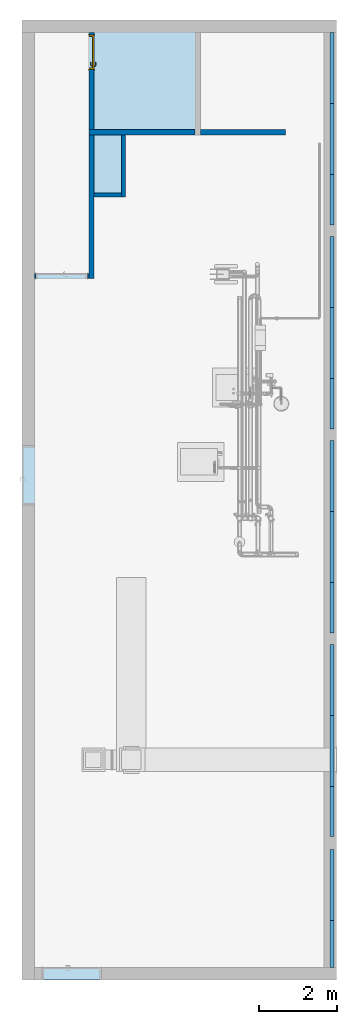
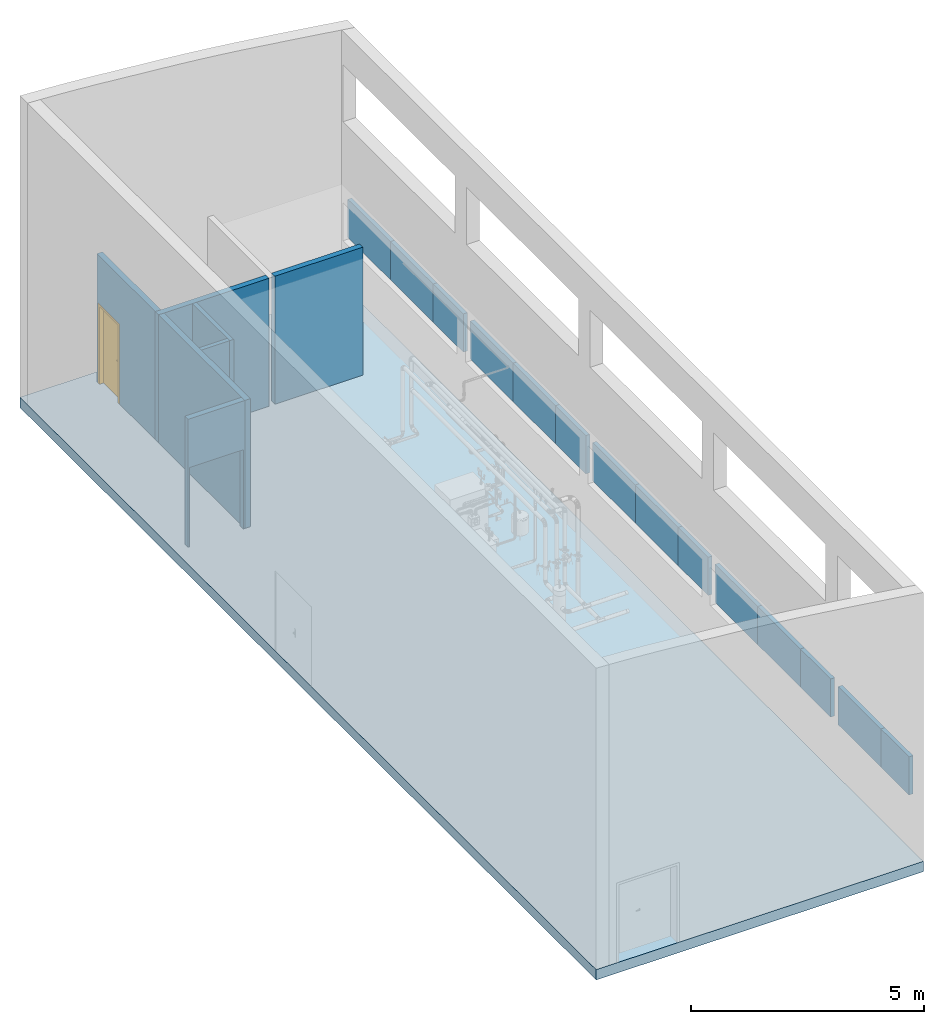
# One storey, part 1 of 43: 14 plates, 7 walls, 1 door, 1 slab, 2 openings, 5 elements without a shape of their own.
"""IFC2X3 building model written with IfcOpenShell, lengths in millimetres."""

from ifc_helpers import new_model, entity, si_unit, converted_unit, derived_unit, direction, frame, frame_2d, origin, origin_2d_with_axis, place, context, subcontext, project, spatial, polyline, rectangle, extrude, clip, bounded_halfspace, faceted_brep, source, transform, mapped, material, material_list, layer, layer_set, layer_usage, type_object, type_shapes, element, fill, aggregate, save


model = new_model("IFC2X3")

# Units and contexts
model_context = context("Model", 3, precision=0.01, world=origin(), true_north=direction((6.123031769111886e-17, 1.0)))
body_context = subcontext(model_context, "Body", "Model", "MODEL_VIEW")
ifc_project = project(units=[si_unit("LENGTHUNIT", "METRE", prefix="MILLI"), si_unit("AREAUNIT", "SQUARE_METRE"), si_unit("VOLUMEUNIT", "CUBIC_METRE"), converted_unit("PLANEANGLEUNIT", "DEGREE", entity("IfcRatioMeasure", 0.017453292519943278), si_unit("PLANEANGLEUNIT", "RADIAN"), dimensions=[0, 0, 0, 0, 0, 0, 0]), si_unit("MASSUNIT", "GRAM", prefix="KILO"), derived_unit("MASSDENSITYUNIT", [(si_unit("MASSUNIT", "GRAM", prefix="KILO"), 1), (si_unit("LENGTHUNIT", "METRE"), -3)]), derived_unit("MOMENTOFINERTIAUNIT", [(si_unit("LENGTHUNIT", "METRE"), 4)]), si_unit("TIMEUNIT", "SECOND"), si_unit("FREQUENCYUNIT", "HERTZ"), si_unit("THERMODYNAMICTEMPERATUREUNIT", "DEGREE_CELSIUS"), derived_unit("THERMALTRANSMITTANCEUNIT", [(si_unit("MASSUNIT", "GRAM", prefix="KILO"), 1), (si_unit("THERMODYNAMICTEMPERATUREUNIT", "KELVIN"), -1), (si_unit("TIMEUNIT", "SECOND"), -3)]), derived_unit("VOLUMETRICFLOWRATEUNIT", [(si_unit("LENGTHUNIT", "METRE"), 3), (si_unit("TIMEUNIT", "SECOND"), -1)]), derived_unit("MASSFLOWRATEUNIT", [(si_unit("MASSUNIT", "GRAM", prefix="KILO"), 1), (si_unit("TIMEUNIT", "SECOND"), -1)]), derived_unit("ROTATIONALFREQUENCYUNIT", [(si_unit("TIMEUNIT", "SECOND"), -1)]), si_unit("ELECTRICCURRENTUNIT", "AMPERE"), si_unit("ELECTRICVOLTAGEUNIT", "VOLT"), si_unit("POWERUNIT", "WATT"), si_unit("FORCEUNIT", "NEWTON", prefix="KILO"), si_unit("ILLUMINANCEUNIT", "LUX"), si_unit("LUMINOUSFLUXUNIT", "LUMEN"), si_unit("LUMINOUSINTENSITYUNIT", "CANDELA"), derived_unit("USERDEFINED", [(si_unit("MASSUNIT", "GRAM", prefix="KILO"), -1), (si_unit("LENGTHUNIT", "METRE"), -2), (si_unit("TIMEUNIT", "SECOND"), 3), (si_unit("LUMINOUSFLUXUNIT", "LUMEN"), 1)]), derived_unit("SOUNDPOWERUNIT", [(si_unit("MASSUNIT", "GRAM", prefix="KILO"), 1), (si_unit("LENGTHUNIT", "METRE"), 2), (si_unit("TIMEUNIT", "SECOND"), -3)]), derived_unit("SOUNDPRESSUREUNIT", [(si_unit("MASSUNIT", "GRAM", prefix="KILO"), 1), (si_unit("LENGTHUNIT", "METRE"), -1), (si_unit("TIMEUNIT", "SECOND"), -2)]), derived_unit("LINEARVELOCITYUNIT", [(si_unit("LENGTHUNIT", "METRE"), 1), (si_unit("TIMEUNIT", "SECOND"), -1)]), si_unit("PRESSUREUNIT", "PASCAL"), derived_unit("USERDEFINED", [(si_unit("LENGTHUNIT", "METRE"), -2), (si_unit("MASSUNIT", "GRAM", prefix="KILO"), 1), (si_unit("TIMEUNIT", "SECOND"), -2)]), derived_unit("LINEARFORCEUNIT", [(si_unit("MASSUNIT", "GRAM", prefix="KILO"), 1), (si_unit("LENGTHUNIT", "METRE"), 1), (si_unit("TIMEUNIT", "SECOND"), -2), (si_unit("LENGTHUNIT", "METRE"), -1)]), derived_unit("PLANARFORCEUNIT", [(si_unit("MASSUNIT", "GRAM", prefix="KILO"), 1), (si_unit("LENGTHUNIT", "METRE"), 1), (si_unit("TIMEUNIT", "SECOND"), -2), (si_unit("LENGTHUNIT", "METRE"), -2)])], contexts=[model_context])

# Site, building, storey
site_placement = place(None, origin())
site = spatial("IfcSite", under=ifc_project, at=site_placement, Name="Default", CompositionType="ELEMENT")
building_placement = place(site_placement, origin())
building = spatial("IfcBuilding", under=site, at=building_placement, CompositionType="ELEMENT")
storey_placement = place(building_placement, frame((0.0, 0.0, 270.0)))
storey = spatial("IfcBuildingStorey", under=building, at=storey_placement, Name="Niveau 0", CompositionType="ELEMENT", Elevation=270.0)

# Slab
ifc_material_1 = material(Name="Sol par défaut")
ifc_layer_1 = layer(ifc_material_1, 270.0)
ifc_layer_set_1 = layer_set([ifc_layer_1], Name="Sol:Générique  270 mm")
ifc_layer_usage_1 = layer_usage(ifc_layer_set_1, "AXIS3", "POSITIVE", 0.0)
slab_type = type_object("IfcSlabType", Name="Sol:Générique  270 mm", PredefinedType="FLOOR", material=ifc_layer_set_1)
slab_placement = place(storey_placement, origin())
element("IfcSlab", 1, at=slab_placement, inside=storey, type_object=slab_type, material=ifc_layer_usage_1, Name="Sol:Générique  270 mm", ObjectType="Sol:Générique  270 mm", PredefinedType="FLOOR", context=body_context, shape_type="SweptSolid", body=[
    extrude(rectangle(XDim=24710.00000000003, YDim=8099.999999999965, at=frame_2d((0.0, -1.5916157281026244e-12), x_axis=(1.0, 0.0))), frame((-4050.0, -12355.0, 0.0), z_axis=(0.0, 0.0, -1.0), x_axis=(0.0, 1.0, 0.0)), (0.0, 0.0, 1.0), 270.0),
])

# Curtain wall, plates
curtain_wall_type = type_object("IfcCurtainWallType", Name="Mur-rideau:Vitrage extérieur", PredefinedType="NOTDEFINED")
curtain_wall_1_placement = place(storey_placement, frame((0.0, 0.0, -270.0)))
curtain_wall_1 = element("IfcCurtainWall", 2, at=curtain_wall_1_placement, inside=storey, type_object=curtain_wall_type, Name="Mur-rideau:Vitrage extérieur", ObjectType="Mur-rideau:Vitrage extérieur")
ifc_material_2 = material(Name="Verre")
plate_type_1 = type_object("IfcPlateType", Name="Panneau système:Vitré", PredefinedType="CURTAIN_PANEL", material=ifc_material_2)
shared_shape_1 = source(origin(), body_context, "Body", "SweptSolid", [
    extrude(rectangle(XDim=100.0, YDim=1830.0000003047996, at=origin_2d_with_axis()), frame((0.0, 100.0, 0.0), z_axis=(0.0, 0.0, 1.0), x_axis=(0.0, 1.0, 0.0)), (0.0, 0.0, 1.0), 1000.0000000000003),
])
type_shapes(plate_type_1, [shared_shape_1])
plate_1_placement = place(curtain_wall_1_placement, frame((-220.0, -1235.0, 1870.0), z_axis=(0.0, 0.0, 1.0), x_axis=(0.0, -1.0, 0.0)))
plate_1 = element("IfcPlate", 3, at=plate_1_placement, type_object=plate_type_1, material=ifc_material_2, Name="Panneau système:Vitré", ObjectType="Panneau système:Vitré", context=body_context, shape_type="MappedRepresentation", body=[
    mapped(shared_shape_1, transform((0.0, 0.0, 0.0), scale=1.0)),
])
plate_2_placement = place(curtain_wall_1_placement, frame((-220.0, -3065.0, 1870.0), z_axis=(0.0, 0.0, 1.0), x_axis=(0.0, -1.0, 0.0)))
plate_2 = element("IfcPlate", 4, at=plate_2_placement, type_object=plate_type_1, material=ifc_material_2, Name="Panneau système:Vitré", ObjectType="Panneau système:Vitré", context=body_context, shape_type="MappedRepresentation", body=[
    mapped(shared_shape_1, transform((0.0, 0.0, 0.0), scale=1.0)),
])

curtain_wall_2_placement = place(storey_placement, frame((0.0, 0.0, -270.0)))
curtain_wall_2 = element("IfcCurtainWall", 5, at=curtain_wall_2_placement, inside=storey, type_object=curtain_wall_type, Name="Mur-rideau:Vitrage extérieur", ObjectType="Mur-rideau:Vitrage extérieur")
plate_3_placement = place(curtain_wall_2_placement, frame((-220.0, -6486.875168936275, 1870.0), z_axis=(0.0, 0.0, 1.0), x_axis=(0.0, -1.0, 0.0)))
plate_3 = element("IfcPlate", 6, at=plate_3_placement, type_object=plate_type_1, material=ifc_material_2, Name="Panneau système:Vitré", ObjectType="Panneau système:Vitré", context=body_context, shape_type="MappedRepresentation", body=[
    mapped(shared_shape_1, transform((0.0, 0.0, 0.0), scale=1.0)),
])
plate_4_placement = place(curtain_wall_2_placement, frame((-220.0, -8316.875169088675, 1870.0), z_axis=(0.0, 0.0, 1.0), x_axis=(0.0, -1.0, 0.0)))
plate_4 = element("IfcPlate", 7, at=plate_4_placement, type_object=plate_type_1, material=ifc_material_2, Name="Panneau système:Vitré", ObjectType="Panneau système:Vitré", context=body_context, shape_type="MappedRepresentation", body=[
    mapped(shared_shape_1, transform((0.0, 0.0, 0.0), scale=1.0)),
])

curtain_wall_3_placement = place(storey_placement, frame((0.0, 0.0, -270.0)))
curtain_wall_3 = element("IfcCurtainWall", 8, at=curtain_wall_3_placement, inside=storey, type_object=curtain_wall_type, Name="Mur-rideau:Vitrage extérieur", ObjectType="Mur-rideau:Vitrage extérieur")
plate_5_placement = place(curtain_wall_3_placement, frame((-220.0, -11736.875168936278, 1870.0), z_axis=(0.0, 0.0, 1.0), x_axis=(0.0, -1.0, 0.0)))
plate_5 = element("IfcPlate", 9, at=plate_5_placement, type_object=plate_type_1, material=ifc_material_2, Name="Panneau système:Vitré", ObjectType="Panneau système:Vitré", context=body_context, shape_type="MappedRepresentation", body=[
    mapped(shared_shape_1, transform((0.0, 0.0, 0.0), scale=1.0)),
])
plate_6_placement = place(curtain_wall_3_placement, frame((-220.0, -13566.875169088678, 1870.0), z_axis=(0.0, 0.0, 1.0), x_axis=(0.0, -1.0, 0.0)))
plate_6 = element("IfcPlate", 10, at=plate_6_placement, type_object=plate_type_1, material=ifc_material_2, Name="Panneau système:Vitré", ObjectType="Panneau système:Vitré", context=body_context, shape_type="MappedRepresentation", body=[
    mapped(shared_shape_1, transform((0.0, 0.0, 0.0), scale=1.0)),
])

curtain_wall_4_placement = place(storey_placement, frame((0.0, 0.0, -270.0)))
curtain_wall_4 = element("IfcCurtainWall", 11, at=curtain_wall_4_placement, inside=storey, type_object=curtain_wall_type, Name="Mur-rideau:Vitrage extérieur", ObjectType="Mur-rideau:Vitrage extérieur")
plate_7_placement = place(curtain_wall_4_placement, frame((-220.0, -16986.87516893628, 1870.0), z_axis=(0.0, 0.0, 1.0), x_axis=(0.0, -1.0, 0.0)))
plate_7 = element("IfcPlate", 12, at=plate_7_placement, type_object=plate_type_1, material=ifc_material_2, Name="Panneau système:Vitré", ObjectType="Panneau système:Vitré", context=body_context, shape_type="MappedRepresentation", body=[
    mapped(shared_shape_1, transform((0.0, 0.0, 0.0), scale=1.0)),
])
plate_8_placement = place(curtain_wall_4_placement, frame((-220.0, -18816.87516908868, 1870.0), z_axis=(0.0, 0.0, 1.0), x_axis=(0.0, -1.0, 0.0)))
plate_8 = element("IfcPlate", 13, at=plate_8_placement, type_object=plate_type_1, material=ifc_material_2, Name="Panneau système:Vitré", ObjectType="Panneau système:Vitré", context=body_context, shape_type="MappedRepresentation", body=[
    mapped(shared_shape_1, transform((0.0, 0.0, 0.0), scale=1.0)),
])

# Curtain wall, plate
curtain_wall_5_placement = place(storey_placement, frame((0.0, 0.0, -270.0)))
curtain_wall_5 = element("IfcCurtainWall", 14, at=curtain_wall_5_placement, inside=storey, type_object=curtain_wall_type, Name="Mur-rideau:Vitrage extérieur", ObjectType="Mur-rideau:Vitrage extérieur")
plate_9_placement = place(curtain_wall_5_placement, frame((-220.0, -22266.77900992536, 1870.0), z_axis=(0.0, 0.0, 1.0), x_axis=(0.0, -1.0, 0.0)))
plate_9 = element("IfcPlate", 15, at=plate_9_placement, type_object=plate_type_1, material=ifc_material_2, Name="Panneau système:Vitré", ObjectType="Panneau système:Vitré", context=body_context, shape_type="MappedRepresentation", body=[
    mapped(shared_shape_1, transform((0.0, 0.0, 0.0), scale=1.0)),
])

# Plate
plate_type_2 = type_object("IfcPlateType", Name="Panneau système:Vitré", PredefinedType="CURTAIN_PANEL", material=ifc_material_2)
shared_shape_2 = source(origin(), body_context, "Body", "SweptSolid", [
    extrude(rectangle(XDim=100.0, YDim=1294.9999996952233, at=origin_2d_with_axis()), frame((0.0, 100.0, 0.0), z_axis=(0.0, 0.0, 1.0), x_axis=(0.0, 1.0, 0.0)), (0.0, 0.0, 1.0), 1000.0000000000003),
])
type_shapes(plate_type_2, [shared_shape_2])
plate_10_placement = place(curtain_wall_1_placement, frame((-220.0, -4627.50000015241, 1870.0), z_axis=(0.0, 0.0, 1.0), x_axis=(0.0, -1.0, 0.0)))
plate_10 = element("IfcPlate", 16, at=plate_10_placement, type_object=plate_type_2, material=ifc_material_2, Name="Panneau système:Vitré", ObjectType="Panneau système:Vitré", context=body_context, shape_type="MappedRepresentation", body=[
    mapped(shared_shape_2, transform((0.0, 0.0, 0.0), scale=1.0)),
])

aggregate(curtain_wall_1, [plate_1, plate_2, plate_10])

plate_11_placement = place(curtain_wall_2_placement, frame((-220.0, -9879.375168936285, 1870.0), z_axis=(0.0, 0.0, 1.0), x_axis=(0.0, -1.0, 0.0)))
plate_11 = element("IfcPlate", 17, at=plate_11_placement, type_object=plate_type_2, material=ifc_material_2, Name="Panneau système:Vitré", ObjectType="Panneau système:Vitré", context=body_context, shape_type="MappedRepresentation", body=[
    mapped(shared_shape_2, transform((0.0, 0.0, 0.0), scale=1.0)),
])

aggregate(curtain_wall_2, [plate_3, plate_4, plate_11])

plate_12_placement = place(curtain_wall_3_placement, frame((-220.0, -15129.375168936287, 1870.0), z_axis=(0.0, 0.0, 1.0), x_axis=(0.0, -1.0, 0.0)))
plate_12 = element("IfcPlate", 18, at=plate_12_placement, type_object=plate_type_2, material=ifc_material_2, Name="Panneau système:Vitré", ObjectType="Panneau système:Vitré", context=body_context, shape_type="MappedRepresentation", body=[
    mapped(shared_shape_2, transform((0.0, 0.0, 0.0), scale=1.0)),
])

aggregate(curtain_wall_3, [plate_5, plate_6, plate_12])

plate_13_placement = place(curtain_wall_4_placement, frame((-220.0, -20379.37516893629, 1870.0), z_axis=(0.0, 0.0, 1.0), x_axis=(0.0, -1.0, 0.0)))
plate_13 = element("IfcPlate", 19, at=plate_13_placement, type_object=plate_type_2, material=ifc_material_2, Name="Panneau système:Vitré", ObjectType="Panneau système:Vitré", context=body_context, shape_type="MappedRepresentation", body=[
    mapped(shared_shape_2, transform((0.0, 0.0, 0.0), scale=1.0)),
])

aggregate(curtain_wall_4, [plate_7, plate_8, plate_13])

plate_type_3 = type_object("IfcPlateType", Name="Panneau système:Vitré", PredefinedType="CURTAIN_PANEL", material=ifc_material_2)
shared_shape_3 = source(origin(), body_context, "Body", "SweptSolid", [
    extrude(rectangle(XDim=100.0, YDim=1208.2209899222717, at=origin_2d_with_axis()), frame((0.0, 100.0, 0.0), z_axis=(0.0, 0.0, 1.0), x_axis=(0.0, 1.0, 0.0)), (0.0, 0.0, 1.0), 1000.0000000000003),
])
type_shapes(plate_type_3, [shared_shape_3])
plate_14_placement = place(curtain_wall_5_placement, frame((-220.0, -23785.8895050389, 1870.0), z_axis=(0.0, 0.0, 1.0), x_axis=(0.0, -1.0, 0.0)))
plate_14 = element("IfcPlate", 20, at=plate_14_placement, type_object=plate_type_3, material=ifc_material_2, Name="Panneau système:Vitré", ObjectType="Panneau système:Vitré", context=body_context, shape_type="MappedRepresentation", body=[
    mapped(shared_shape_3, transform((0.0, 0.0, 0.0), scale=1.0)),
])

aggregate(curtain_wall_5, [plate_9, plate_14])

# Walls
ifc_material_3 = material(Name="Peinture")
ifc_layer_2 = layer(ifc_material_3, 140.0)
ifc_layer_set_2 = layer_set([ifc_layer_2], Name="Mur de base:Générique - 140 mm")
ifc_layer_usage_2 = layer_usage(ifc_layer_set_2, "AXIS2", "POSITIVE", -69.99999999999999)
wall_type_1 = type_object("IfcWallType", Name="Mur de base:Générique - 140 mm", PredefinedType="STANDARD", material=ifc_layer_set_2)
wall_1_placement = place(storey_placement, frame((-3500.0, -2890.0, 0.0)))
element("IfcWallStandardCase", 21, at=wall_1_placement, inside=storey, type_object=wall_type_1, material=ifc_layer_usage_2, Name="Mur de base:Générique - 140 mm", ObjectType="Mur de base:Générique - 140 mm", context=body_context, shape_type="Clipping", body=[
    clip(extrude(rectangle(XDim=2179.9999999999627, YDim=139.99999999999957, at=frame_2d((1089.9999999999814, 4.263256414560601e-14), x_axis=(-1.0, 0.0))), origin(), (0.0, 0.0, 1.0), 3350.0), bounded_halfspace(frame((0.0, -70.0, 3350.0), z_axis=(0.0, 0.0, -1.0), x_axis=(1.0, 0.0, 0.0)), True, frame((0.0, -70.0, 3350.0)), polyline([(0.0, 0.0), (664464.0, 0.0), (664464.0, 42672.0), (0.0, 42672.0), (0.0, 0.0)]))),
])
ifc_layer_usage_3 = layer_usage(ifc_layer_set_2, "AXIS2", "POSITIVE", -69.99999999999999)
wall_2_placement = place(storey_placement, frame((-3640.0, -2890.0, 0.0), z_axis=(0.0, 0.0, 1.0), x_axis=(-1.0, 0.0, 0.0)))
element("IfcWallStandardCase", 22, at=wall_2_placement, inside=storey, type_object=wall_type_1, material=ifc_layer_usage_3, Name="Mur de base:Générique - 140 mm", ObjectType="Mur de base:Générique - 140 mm", context=body_context, shape_type="Clipping", body=[
    clip(extrude(rectangle(XDim=2740.000000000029, YDim=139.99999999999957, at=frame_2d((1370.0000000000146, -3.552713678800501e-14), x_axis=(-1.0, 0.0))), origin(), (0.0, 0.0, 1.0), 3350.0), bounded_halfspace(frame((0.0, -70.0, 3350.0), z_axis=(0.0, 0.0, -1.0), x_axis=(-1.0, 0.0, 0.0)), True, frame((0.0, -70.0, 3350.0)), polyline([(0.0, 0.0), (792480.0, 0.0), (835152.0, 0.0), (835152.0, 42672.0), (792480.0, 42672.0), (579120.0, 42672.0), (548640.0, 42672.0), (0.0, 42672.0), (0.0, 0.0)]))),
])

# Wall, opening, door
ifc_layer_usage_4 = layer_usage(ifc_layer_set_2, "AXIS2", "POSITIVE", -69.99999999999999)
wall_3_placement = place(storey_placement, frame((-6310.0, -2820.0, 0.0), z_axis=(0.0, 0.0, 1.0), x_axis=(0.0, 1.0, 0.0)))
wall_3 = element("IfcWallStandardCase", 23, at=wall_3_placement, inside=storey, type_object=wall_type_1, material=ifc_layer_usage_4, Name="Mur de base:Générique - 140 mm", ObjectType="Mur de base:Générique - 140 mm", context=body_context, shape_type="Clipping", body=[
    clip(extrude(rectangle(XDim=2500.0000000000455, YDim=139.99999999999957, at=frame_2d((1250.0000000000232, 5.400124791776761e-13), x_axis=(1.0, 0.0))), origin(), (0.0, 0.0, 1.0), 3350.0), bounded_halfspace(frame((0.0, -70.0, 3350.0), z_axis=(0.0, 0.0, -1.0), x_axis=(0.0, -1.0, 0.0)), True, frame((0.0, -70.0, 3350.0)), polyline([(0.0, 0.0), (762000.0, 0.0), (762000.0, 42672.0), (0.0, 42672.0), (0.0, 0.0)]))),
])
opening_1_placement = place(wall_3_placement, frame((2440.0, 70.0, 0.0)))
opening_1 = element("IfcOpeningElement", 24, at=opening_1_placement, cuts=wall_3, Name="Int. Simple:PP (0.83m x 2.04m):1", ObjectType="Opening", context=body_context, shape_type="SweptSolid", body=[
    extrude(rectangle(XDim=2075.0, YDim=900.0000000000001, at=frame_2d((1037.5, 450.00000000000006), x_axis=(1.0, 0.0))), frame((0.0, 0.0, 0.0), z_axis=(0.0, -1.0, 0.0), x_axis=(0.0, 0.0, 1.0)), (0.0, 0.0, 1.0), 139.99999999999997),
])
ifc_material_4 = material(Name="Finition Peinture - Blanc satiné")
ifc_material_5 = material(Name="Bois - Panneau de porte")
ifc_material_6 = material(Name="Bois - Cadre de porte")
ifc_material_list_1 = material_list([ifc_material_4, ifc_material_4, ifc_material_4, ifc_material_4, ifc_material_5, ifc_material_6, ifc_material_6, ifc_material_6])
ifc_material_list_2 = material_list([ifc_material_4, ifc_material_4, ifc_material_4, ifc_material_4, ifc_material_5, ifc_material_6, ifc_material_6, ifc_material_6])
door_style = type_object("IfcDoorStyle", Name="Int. Simple:PP (0.83m x 2.04m)", ConstructionType="NOTDEFINED", OperationType="SINGLE_SWING_LEFT", ParameterTakesPrecedence=False, Sizeable=False, material=ifc_material_list_2)
shared_shape_4 = source(origin(), body_context, "Body", "Brep", [
    faceted_brep([(105.3527618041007, -5.0, 866.003983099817), (115.0, -5.0, 870.0), (115.0, -5.0, 1080.0), (105.35276180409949, -5.0, 1083.9960169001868), (95.0, -5.0, 1085.3589838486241), (84.64723819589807, -5.0, 1083.996016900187), (75.0, -5.0, 1080.0), (75.0, -5.0, 870.0), (84.64723819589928, -5.0, 866.003983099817), (95.0, -5.0, 864.6410161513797), (105.35276180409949, 0.0, 1083.9960169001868), (115.0, 0.0, 1080.0), (115.0, 0.0, 870.0), (105.3527618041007, 0.0, 866.003983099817), (95.0, 0.0, 864.6410161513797), (84.64723819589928, 0.0, 866.003983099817), (75.0, 0.0, 870.0), (75.0, 0.0, 1080.0), (84.64723819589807, 0.0, 1083.996016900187), (95.0, 0.0, 1085.3589838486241)], [[[0, 1, 2, 3, 4, 5, 6, 7, 8, 9]], [[10, 11, 12, 13, 14, 15, 16, 17, 18, 19]], [[16, 15, 8, 7]], [[8, 15, 14, 9]], [[14, 13, 0, 9]], [[13, 12, 1, 0]], [[2, 1, 12, 11]], [[11, 10, 3, 2]], [[3, 10, 19, 4]], [[19, 18, 5, 4]], [[18, 17, 6, 5]], [[7, 6, 17, 16]]]),
    faceted_brep([(105.35276180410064, 40.0, 866.003983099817), (115.0, 40.0, 870.0), (115.0, 40.0, 1080.0), (105.35276180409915, 40.0, 1083.996016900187), (95.0, 40.0, 1085.3589838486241), (84.64723819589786, 40.0, 1083.9960169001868), (75.0, 40.0, 1080.0), (75.0, 40.0, 870.0), (84.64723819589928, 40.0, 866.0039830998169), (95.0, 40.0, 864.6410161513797), (105.35276180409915, 45.0, 1083.996016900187), (115.0, 45.0, 1080.0), (115.0, 45.0, 870.0), (105.35276180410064, 45.0, 866.003983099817), (95.0, 45.0, 864.6410161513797), (84.64723819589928, 45.0, 866.0039830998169), (75.0, 45.0, 870.0), (75.0, 45.0, 1080.0), (84.64723819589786, 45.0, 1083.9960169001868), (95.0, 45.0, 1085.3589838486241)], [[[0, 1, 2, 3, 4, 5, 6, 7, 8, 9]], [[10, 11, 12, 13, 14, 15, 16, 17, 18, 19]], [[11, 10, 3, 2]], [[3, 10, 19, 4]], [[19, 18, 5, 4]], [[18, 17, 6, 5]], [[7, 6, 17, 16]], [[16, 15, 8, 7]], [[8, 15, 14, 9]], [[14, 13, 0, 9]], [[13, 12, 1, 0]], [[2, 1, 12, 11]]]),
    faceted_brep([(92.97470134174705, -5.0, 1007.7804408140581), (97.02529865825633, -5.0, 1007.7804408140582), (101.0, -5.0, 1007.0), (101.0, -5.0, 993.0), (97.02529865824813, -5.0, 992.2195591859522), (92.97470134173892, -5.0, 992.21955918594), (89.0, -5.0, 993.0), (89.0, -5.0, 1007.0), (89.0, -32.650950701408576, 1007.0), (92.97470134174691, -31.00457549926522, 1007.7804408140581), (109.0235851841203, -47.053459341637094, 1007.7804408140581), (110.7013975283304, -43.00286202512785, 1007.7804408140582), (97.02529865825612, -29.326763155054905, 1007.7804408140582), (101.0, -27.68038795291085, 1007.0), (101.0, -27.680387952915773, 993.0), (97.02529865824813, -29.326763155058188, 992.2195591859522), (110.70139752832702, -43.00286202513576, 992.2195591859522), (109.02358518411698, -47.053459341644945, 992.21955918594), (92.97470134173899, -31.004575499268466, 992.21955918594), (89.0, -32.65095070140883, 993.0), (107.37720998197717, -51.02816068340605, 1007.0), (112.34777273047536, -39.028160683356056, 1007.0), (112.34777273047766, -39.028160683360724, 993.0), (107.37720998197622, -51.028160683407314, 993.0), (195.01864060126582, -51.02816068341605, 993.0), (195.01864060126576, -47.05345934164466, 992.2195591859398), (195.01864060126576, -43.00286202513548, 992.219559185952), (195.01864060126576, -39.02816068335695, 993.0), (195.01864060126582, -39.028160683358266, 1007.0), (195.01864060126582, -43.002862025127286, 1007.780440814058), (195.01864060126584, -47.05345934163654, 1007.7804408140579), (195.01864060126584, -51.02816068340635, 1007.0), (147.30769722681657, -51.02816068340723, 1007.0), (152.86001908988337, -45.028160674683, 1007.878686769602), (153.68320666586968, -39.02816068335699, 1007.0), (153.68320666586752, -39.028160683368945, 993.0), (152.86001889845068, -45.02816075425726, 992.1213132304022), (147.30770020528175, -51.028160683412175, 993.0)], [[[0, 1, 2, 3, 4, 5, 6, 7]], [[8, 9, 0, 7]], [[9, 10, 11, 12, 1, 0]], [[12, 13, 2, 1]], [[3, 2, 13, 14]], [[14, 15, 4, 3]], [[15, 16, 17, 18, 5, 4]], [[18, 19, 6, 5]], [[7, 6, 19, 8]], [[20, 10, 9, 8]], [[11, 21, 13, 12]], [[14, 13, 21, 22]], [[22, 16, 15, 14]], [[17, 23, 19, 18]], [[8, 19, 23, 20]], [[24, 25, 26, 27, 28, 29, 30, 31]], [[32, 30, 33]], [[31, 30, 32]], [[10, 20, 32]], [[33, 34, 11]], [[21, 11, 34]], [[34, 29, 28]], [[30, 29, 33]], [[29, 34, 33]], [[10, 32, 33]], [[10, 33, 11]], [[22, 21, 34, 28, 27, 35]], [[35, 26, 36]], [[37, 36, 25]], [[22, 35, 16]], [[35, 27, 26]], [[24, 37, 25]], [[23, 17, 37]], [[37, 17, 36]], [[17, 16, 36]], [[16, 35, 36]], [[25, 36, 26]], [[20, 23, 37, 24, 31, 32]]]),
    faceted_brep([(92.97470134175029, 45.0, 1007.7804408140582), (89.0, 45.0, 1007.0), (89.0, 45.0, 993.0), (92.97470134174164, 45.0, 992.2195591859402), (97.02529865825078, 45.0, 992.2195591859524), (101.0, 45.0, 993.0), (101.0, 45.0, 1007.0), (97.02529865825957, 45.0, 1007.7804408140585), (101.0, 67.48520450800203, 993.0), (101.0, 67.4852045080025, 1007.0), (97.02529865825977, 69.1315797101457, 1007.7804408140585), (110.83890617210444, 82.94518722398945, 1007.7804408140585), (109.16109382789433, 86.9957845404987, 1007.7804408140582), (92.97470134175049, 70.80939205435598, 1007.7804408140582), (89.0, 72.4557672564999, 1007.0), (89.0, 72.45576725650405, 993.0), (92.97470134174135, 70.80939205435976, 992.2195591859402), (109.16109382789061, 86.9957845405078, 992.2195591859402), (110.83890617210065, 82.94518722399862, 992.2195591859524), (97.02529865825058, 69.13157971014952, 992.2195591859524), (112.48528137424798, 78.97048588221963, 993.0), (112.48528137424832, 78.97048588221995, 1007.0), (107.51471862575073, 90.97048588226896, 1007.0), (107.51471862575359, 90.97048588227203, 993.0), (195.0457836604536, 78.97048588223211, 993.0), (195.04578366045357, 82.94518722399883, 992.2195591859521), (195.04578366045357, 86.99578454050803, 992.2195591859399), (195.04578366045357, 90.97048588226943, 993.0), (195.0457836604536, 90.97048588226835, 1007.0), (195.0457836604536, 86.99578454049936, 1007.780440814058), (195.04578366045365, 82.94518722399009, 1007.7804408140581), (195.04578366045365, 78.9704858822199, 1007.0), (153.76552060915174, 78.97048588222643, 993.0), (153.7655325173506, 78.97048588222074, 1007.0), (152.9423448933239, 84.97048589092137, 1007.8786867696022), (147.44520578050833, 90.97048588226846, 1007.0), (147.44520433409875, 90.97048588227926, 993.0), (152.9423451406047, 84.97048581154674, 992.1213132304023)], [[[0, 1, 2, 3, 4, 5, 6, 7]], [[6, 5, 8, 9]], [[9, 10, 7, 6]], [[10, 11, 12, 13, 0, 7]], [[13, 14, 1, 0]], [[2, 1, 14, 15]], [[15, 16, 3, 2]], [[16, 17, 18, 19, 4, 3]], [[19, 8, 5, 4]], [[9, 8, 20, 21]], [[21, 11, 10, 9]], [[12, 22, 14, 13]], [[15, 14, 22, 23]], [[23, 17, 16, 15]], [[18, 20, 8, 19]], [[24, 25, 26, 27, 28, 29, 30, 31]], [[21, 20, 32, 24, 31, 33]], [[33, 30, 34]], [[35, 34, 29]], [[21, 33, 11]], [[33, 31, 30]], [[28, 35, 29]], [[22, 12, 35]], [[35, 12, 34]], [[12, 11, 34]], [[11, 33, 34]], [[29, 34, 30]], [[22, 35, 28, 27, 36, 23]], [[36, 26, 37]], [[27, 26, 36]], [[17, 23, 36]], [[37, 32, 18]], [[20, 18, 32]], [[32, 25, 24]], [[26, 25, 37]], [[25, 32, 37]], [[17, 36, 37]], [[17, 37, 18]]]),
    faceted_brep([(35.0, 40.0, 2040.0), (865.0, 40.0, 2040.0), (865.0, 40.0, 0.0), (35.0, 40.0, 0.0), (35.0, 0.0, 2040.0), (35.0, 0.0, 0.0), (865.0, 0.0, 0.0), (865.0, 0.0, 2040.0)], [[[0, 1, 2, 3]], [[4, 5, 6, 7]], [[1, 0, 4, 7]], [[2, 1, 7, 6]], [[3, 2, 6, 5]], [[0, 3, 5, 4]]]),
    faceted_brep([(0.0, 0.0, 0.0), (0.0, 140.0, 0.0), (50.0, 140.0, 0.0), (50.0, 40.0, 0.0), (35.0, 40.0, 0.0), (35.0, 0.0, 0.0), (0.0, 0.0, 2075.0), (0.0, 140.0, 2075.0), (900.0, 140.0, 2075.0), (900.0, 140.0, 0.0), (850.0, 140.0, 0.0), (850.0, 140.0, 2025.0), (50.0, 140.0, 2025.0), (50.0, 40.0, 2025.0), (850.0, 40.0, 2025.0), (850.0, 40.0, 0.0), (865.0, 40.0, 0.0), (865.0, 40.0, 2040.0), (35.0, 40.0, 2040.0), (35.0, 0.0, 2040.0), (865.0, 0.0, 2040.0), (865.0, 0.0, 0.0), (900.0, 0.0, 0.0), (900.0, 0.0, 2075.0)], [[[0, 1, 2, 3, 4, 5]], [[1, 0, 6, 7]], [[2, 1, 7, 8, 9, 10, 11, 12]], [[3, 2, 12, 13]], [[4, 3, 13, 14, 15, 16, 17, 18]], [[5, 4, 18, 19]], [[0, 5, 19, 20, 21, 22, 23, 6]], [[8, 23, 22, 9]], [[22, 21, 16, 15, 10, 9]], [[14, 11, 10, 15]], [[20, 17, 16, 21]], [[7, 6, 23, 8]], [[13, 12, 11, 14]], [[19, 18, 17, 20]]]),
    faceted_brep([(15.0, 140.0, 0.0), (-15.0, 140.0, 0.0), (-15.0, 145.0, 0.0), (15.0, 145.0, 0.0), (15.0, 140.0, 2060.0), (885.0, 140.0, 2060.0), (885.0, 140.0, 0.0), (915.0, 140.0, 0.0), (915.0, 140.0, 2090.0), (-15.0, 140.0, 2090.0), (-15.0, 145.0, 2090.0), (915.0, 145.0, 2090.0), (915.0, 145.0, 0.0), (885.0, 145.0, 0.0), (885.0, 145.0, 2060.0), (15.0, 145.0, 2060.0)], [[[0, 1, 2, 3]], [[1, 0, 4, 5, 6, 7, 8, 9]], [[2, 1, 9, 10]], [[3, 2, 10, 11, 12, 13, 14, 15]], [[0, 3, 15, 4]], [[6, 13, 12, 7]], [[5, 14, 13, 6]], [[11, 8, 7, 12]], [[10, 9, 8, 11]], [[4, 15, 14, 5]]]),
    faceted_brep([(-15.0, -5.0, 0.0), (15.0, -5.0, 0.0), (15.0, -5.0, 2060.0), (885.0, -5.0, 2060.0), (885.0, -5.0, 0.0), (915.0, -5.0, 0.0), (915.0, -5.0, 2090.0), (-15.0, -5.0, 2090.0), (-15.0, 0.0, 0.0), (-15.0, 0.0, 2090.0), (15.0, 0.0, 0.0), (915.0, 0.0, 2090.0), (915.0, 0.0, 0.0), (885.0, 0.0, 0.0), (885.0, 0.0, 2060.0), (15.0, 0.0, 2060.0)], [[[0, 1, 2, 3, 4, 5, 6, 7]], [[8, 0, 7, 9]], [[10, 8, 9, 11, 12, 13, 14, 15]], [[1, 10, 15, 2]], [[3, 14, 13, 4]], [[11, 6, 5, 12]], [[9, 7, 6, 11]], [[2, 15, 14, 3]], [[4, 13, 12, 5]], [[1, 0, 8, 10]]]),
])
type_shapes(door_style, [shared_shape_4])
door_placement = place(opening_1_placement, frame((-900.0, -140.0, 0.0)))
door = element("IfcDoor", 25, at=door_placement, inside=storey, type_object=door_style, material=ifc_material_list_1, Name="Int. Simple:PP (0.83m x 2.04m)", ObjectType="Int. Simple:PP (0.83m x 2.04m)", OverallHeight=2075.0, OverallWidth=900.0000000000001, context=body_context, shape_type="MappedRepresentation", body=[
    mapped(shared_shape_4, transform((0.0, 0.0, 0.0), scale=1.0)),
])
fill(opening_1, door)

# Wall
ifc_layer_usage_5 = layer_usage(ifc_layer_set_2, "AXIS2", "POSITIVE", -69.99999999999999)
wall_4_placement = place(storey_placement, frame((-6310.0, -2960.0, 0.0), z_axis=(0.0, 0.0, 1.0), x_axis=(0.0, -1.0, 0.0)))
element("IfcWallStandardCase", 26, at=wall_4_placement, inside=storey, type_object=wall_type_1, material=ifc_layer_usage_5, Name="Mur de base:Générique - 140 mm", ObjectType="Mur de base:Générique - 140 mm", context=body_context, shape_type="Clipping", body=[
    clip(extrude(rectangle(XDim=3699.99999999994, YDim=140.00000000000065, at=frame_2d((1849.99999999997, 1.0658141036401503e-13), x_axis=(-1.0, 0.0))), origin(), (0.0, 0.0, 1.0), 3350.0), bounded_halfspace(frame((0.0, -70.0, 3350.0), z_axis=(0.0, 0.0, -1.0), x_axis=(0.0, 1.0, 0.0)), True, frame((0.0, -70.0, 3350.0)), polyline([(0.0, 0.0), (1085088.0, 0.0), (1127760.0, 0.0), (1127760.0, 42672.0), (487680.0, 42672.0), (457200.0, 42672.0), (0.0, 42672.0), (0.0, 0.0)]))),
])

# Wall, opening
ifc_layer_usage_6 = layer_usage(ifc_layer_set_2, "AXIS2", "POSITIVE", -69.99999999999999)
wall_5_placement = place(storey_placement, frame((-6380.0, -6590.0, 0.0), z_axis=(0.0, 0.0, 1.0), x_axis=(-1.0, 0.0, 0.0)))
wall_5 = element("IfcWallStandardCase", 27, at=wall_5_placement, inside=storey, type_object=wall_type_1, material=ifc_layer_usage_6, Name="Mur de base:Générique - 140 mm", ObjectType="Mur de base:Générique - 140 mm", context=body_context, shape_type="Clipping", body=[
    clip(extrude(rectangle(XDim=1399.999999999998, YDim=139.99999999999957, at=frame_2d((699.999999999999, 5.400124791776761e-13), x_axis=(1.0, 0.0))), origin(), (0.0, 0.0, 1.0), 3350.0), bounded_halfspace(frame((0.0, -70.0, 3350.0), z_axis=(0.0, 0.0, -1.0), x_axis=(-1.0, 0.0, 0.0)), True, frame((0.0, -70.0, 3350.0)), polyline([(0.0, 0.0), (426720.0, 0.0), (426720.0, 42672.0), (0.0, 42672.0), (0.0, 0.0)]))),
])
opening_2_placement = place(wall_5_placement, frame((1365.0, 70.0, 0.0)))
element("IfcOpeningElement", 28, at=opening_2_placement, cuts=wall_5, Name="Int. Double:PP (1.26m x 2.04m):1", ObjectType="Opening", context=body_context, shape_type="SweptSolid", body=[
    extrude(rectangle(XDim=2075.00000000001, YDim=1330.0000000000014, at=frame_2d((1037.500000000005, 665.0000000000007), x_axis=(1.0, 0.0))), frame((0.0, 0.0, 0.0), z_axis=(0.0, -1.0, 0.0), x_axis=(0.0, 0.0, 1.0)), (0.0, 0.0, 1.0), 139.99999999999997),
])

# Walls
ifc_layer_3 = layer(ifc_material_3, 100.0)
ifc_layer_set_3 = layer_set([ifc_layer_3], Name="Mur de base:Générique - 100 mm")
ifc_layer_usage_7 = layer_usage(ifc_layer_set_3, "AXIS2", "POSITIVE", -50.0)
wall_type_2 = type_object("IfcWallType", Name="Mur de base:Générique - 100 mm", PredefinedType="STANDARD", material=ifc_layer_set_3)
wall_6_placement = place(storey_placement, frame((-5490.0, -2960.0, 0.0), z_axis=(0.0, 0.0, 1.0), x_axis=(0.0, -1.0, 0.0)))
element("IfcWallStandardCase", 29, at=wall_6_placement, inside=storey, type_object=wall_type_2, material=ifc_layer_usage_7, Name="Mur de base:Générique - 100 mm", ObjectType="Mur de base:Générique - 100 mm", context=body_context, shape_type="Clipping", body=[
    clip(extrude(rectangle(XDim=1600.000000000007, YDim=99.99999999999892, at=frame_2d((800.0000000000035, 7.460698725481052e-14), x_axis=(-1.0, 0.0))), origin(), (0.0, 0.0, 1.0), 3350.0), bounded_halfspace(frame((0.0, -50.0, 3350.0), z_axis=(0.0, 0.0, -1.0), x_axis=(0.0, 1.0, 0.0)), True, frame((0.0, -50.0, 3350.0)), polyline([(0.0, 0.0), (457200.0, 0.0), (487680.0, 0.0), (487680.0, 30480.0), (0.0, 30480.0), (0.0, 0.0)]))),
])
ifc_layer_usage_8 = layer_usage(ifc_layer_set_3, "AXIS2", "POSITIVE", -50.0)
wall_7_placement = place(storey_placement, frame((-5540.0, -4510.0, 0.0), z_axis=(0.0, 0.0, 1.0), x_axis=(-1.0, 0.0, 0.0)))
element("IfcWallStandardCase", 30, at=wall_7_placement, inside=storey, type_object=wall_type_2, material=ifc_layer_usage_8, Name="Mur de base:Générique - 100 mm", ObjectType="Mur de base:Générique - 100 mm", context=body_context, shape_type="Clipping", body=[
    clip(extrude(rectangle(XDim=700.0000000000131, YDim=100.0, at=frame_2d((350.00000000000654, 0.0), x_axis=(-1.0, 0.0))), origin(), (0.0, 0.0, 1.0), 3350.0), bounded_halfspace(frame((0.0, -50.0, 3350.0), z_axis=(0.0, 0.0, -1.0), x_axis=(-1.0, 0.0, 0.0)), True, frame((0.0, -50.0, 3350.0)), polyline([(0.0, 0.0), (213360.0, 0.0), (213360.0, 30480.0), (0.0, 30480.0), (0.0, 0.0)]))),
])

save(model, "model.ifc")
